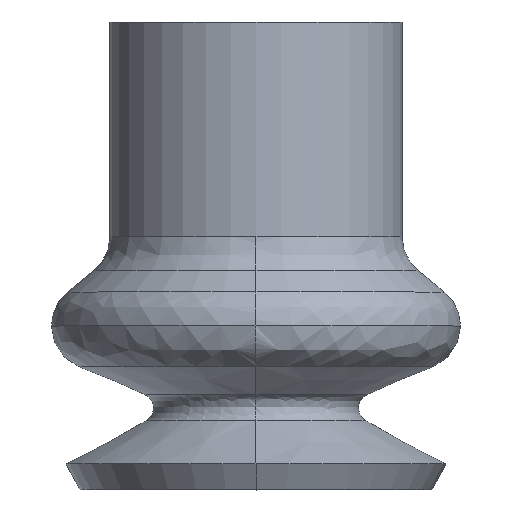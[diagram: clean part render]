
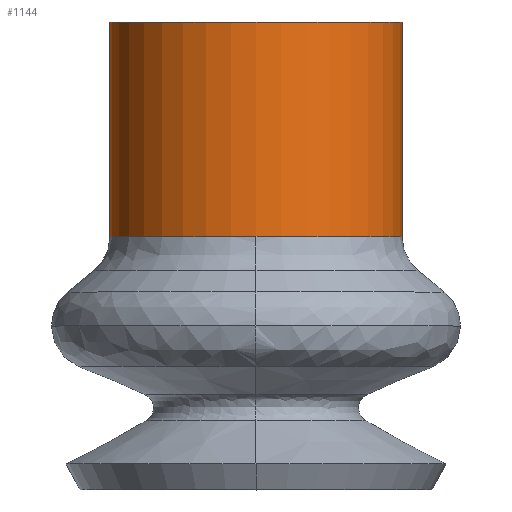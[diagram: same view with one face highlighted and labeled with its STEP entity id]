
A CAD part, top view. The second image highlights one B-rep face of the part: STEP entity #1144.
In plain terms, the highlighted cylindrical face has radius 5 mm (diameter 10 mm), a partial arc.
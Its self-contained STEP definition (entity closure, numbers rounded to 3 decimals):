
#12 = AXIS2_PLACEMENT_3D ( 'NONE', #773, #132, #198 ) ;
#15 = ORIENTED_EDGE ( 'NONE', *, *, #524, .T. ) ;
#22 = EDGE_LOOP ( 'NONE', ( #15, #46, #52, #53, #59 ) ) ;
#25 = AXIS2_PLACEMENT_3D ( 'NONE', #1000, #1086, #1037 ) ;
#46 = ORIENTED_EDGE ( 'NONE', *, *, #721, .T. ) ;
#52 = ORIENTED_EDGE ( 'NONE', *, *, #443, .F. ) ;
#53 = ORIENTED_EDGE ( 'NONE', *, *, #800, .F. ) ;
#59 = ORIENTED_EDGE ( 'NONE', *, *, #463, .T. ) ;
#81 = VECTOR ( 'NONE', #389, 1000. ) ;
#87 = VERTEX_POINT ( 'NONE', #575 ) ;
#120 = CIRCLE ( 'NONE', #1122, 5. ) ;
#125 = DIRECTION ( 'NONE',  ( -1., 0., 0. ) ) ;
#132 = DIRECTION ( 'NONE',  ( 0., 1., 0. ) ) ;
#172 = LINE ( 'NONE', #307, #1119 ) ;
#198 = DIRECTION ( 'NONE',  ( -1., 0., 0. ) ) ;
#243 = CARTESIAN_POINT ( 'NONE',  ( 5., -7.342, 0. ) ) ;
#249 = CIRCLE ( 'NONE', #25, 5. ) ;
#262 = CARTESIAN_POINT ( 'NONE',  ( 5., -7.342, 0. ) ) ;
#300 = AXIS2_PLACEMENT_3D ( 'NONE', #368, #374, #125 ) ;
#302 = DIRECTION ( 'NONE',  ( 0., 1., 0. ) ) ;
#307 = CARTESIAN_POINT ( 'NONE',  ( -5., -7.342, 0. ) ) ;
#368 = CARTESIAN_POINT ( 'NONE',  ( 0., -7.342, 0. ) ) ;
#374 = DIRECTION ( 'NONE',  ( 0., 1., 0. ) ) ;
#375 = DIRECTION ( 'NONE',  ( -1., 0., 0. ) ) ;
#389 = DIRECTION ( 'NONE',  ( 0., 1., 0. ) ) ;
#405 = VERTEX_POINT ( 'NONE', #586 ) ;
#423 = DIRECTION ( 'NONE',  ( 0., 1., 0. ) ) ;
#443 = EDGE_CURVE ( 'NONE', #919, #1019, #249, .T. ) ;
#463 = EDGE_CURVE ( 'NONE', #87, #405, #564, .T. ) ;
#524 = EDGE_CURVE ( 'NONE', #405, #1151, #120, .T. ) ;
#564 = CIRCLE ( 'NONE', #12, 5. ) ;
#575 = CARTESIAN_POINT ( 'NONE',  ( -5., -7.342, 0. ) ) ;
#586 = CARTESIAN_POINT ( 'NONE',  ( 0., -7.342, 5. ) ) ;
#618 = CYLINDRICAL_SURFACE ( 'NONE', #300, 5. ) ;
#673 = CARTESIAN_POINT ( 'NONE',  ( 0., -7.342, 0. ) ) ;
#721 = EDGE_CURVE ( 'NONE', #1151, #1019, #1133, .T. ) ;
#734 = CARTESIAN_POINT ( 'NONE',  ( -5., 0., 0. ) ) ;
#773 = CARTESIAN_POINT ( 'NONE',  ( 0., -7.342, 0. ) ) ;
#794 = FACE_OUTER_BOUND ( 'NONE', #22, .T. ) ;
#800 = EDGE_CURVE ( 'NONE', #87, #919, #172, .T. ) ;
#919 = VERTEX_POINT ( 'NONE', #734 ) ;
#920 = CARTESIAN_POINT ( 'NONE',  ( 5., 0., 0. ) ) ;
#1000 = CARTESIAN_POINT ( 'NONE',  ( 0., 0., 0. ) ) ;
#1019 = VERTEX_POINT ( 'NONE', #920 ) ;
#1037 = DIRECTION ( 'NONE',  ( -1., 0., 0. ) ) ;
#1086 = DIRECTION ( 'NONE',  ( 0., 1., 0. ) ) ;
#1119 = VECTOR ( 'NONE', #423, 1000. ) ;
#1122 = AXIS2_PLACEMENT_3D ( 'NONE', #673, #302, #375 ) ;
#1133 = LINE ( 'NONE', #243, #81 ) ;
#1144 = ADVANCED_FACE ( 'NONE', ( #794 ), #618, .T. ) ;
#1151 = VERTEX_POINT ( 'NONE', #262 ) ;
